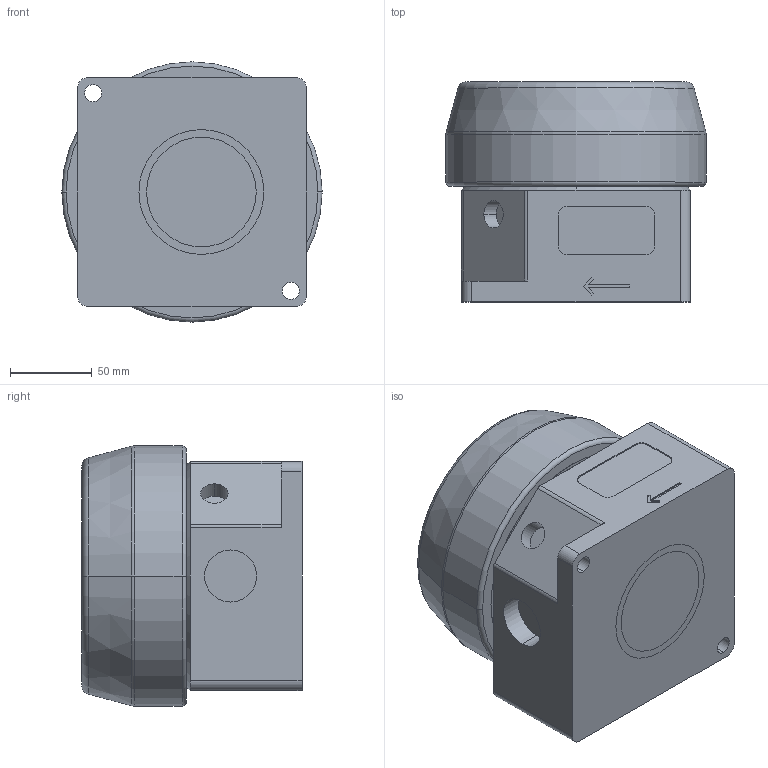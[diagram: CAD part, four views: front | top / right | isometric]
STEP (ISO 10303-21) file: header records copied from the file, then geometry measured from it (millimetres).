
FILE_DESCRIPTION (( 'STEP AP214' ), '1' );
FILE_NAME ('RFA 12 .STEP', '2021-08-20T18:27:36', ( '' ), ( '' ), 'SwSTEP 2.0', 'SolidWorks 2020', '' );
FILE_SCHEMA (( 'AUTOMOTIVE_DESIGN' ));
Length unit declared in the file: inch
Products named in the file (1): RFA 12 
Bounding box: 158.75 x 134.24 x 158.75 mm (x, y, z)
Volume: 2446634.5 mm3; surface area: 116372.2 mm2
Topology: 1 solids, 1 shells, 94 faces, 230 edges, 150 vertices
Faces by surface type: plane 52, cylinder 30, cone 6, torus 6
Entity records: 4052 total; most frequent: DIRECTION 508, CARTESIAN_POINT 475, ORIENTED_EDGE 460, EDGE_CURVE 230, AXIS2_PLACEMENT_3D 183, VERTEX_POINT 150, VECTOR 142, LINE 142
